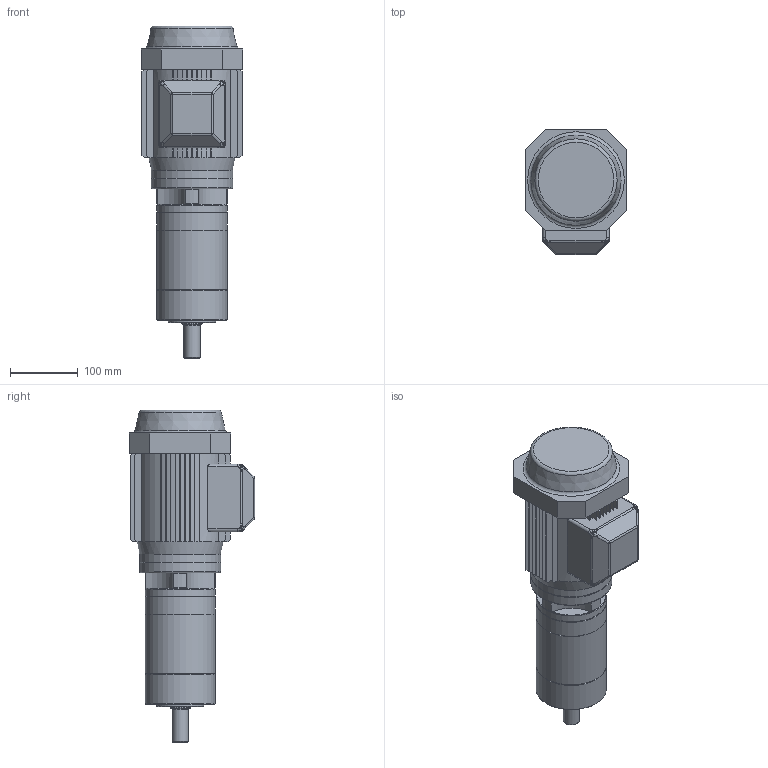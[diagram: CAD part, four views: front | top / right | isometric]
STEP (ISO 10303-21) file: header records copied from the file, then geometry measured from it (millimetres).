
FILE_DESCRIPTION((''),'2;1');
FILE_NAME('Y:\Archivi Inventor\Prog_16\Mep_100\Complessivi\figurini\Figurini per web\4s\MEP100_4s_80_B14.stp','2013-09-27T08:54:18',('tech3'),(''),'Autodesk Inventor 2013','Autodesk Inventor 2013','');
FILE_SCHEMA(('AUTOMOTIVE_DESIGN { 1 0 10303 214 1 1 1 1 }'));
Length unit declared in the file: millimetre
Products named in the file (13): Fig_MEP100_4S; Fig_1610001-C1; Fig_1610002-A0; Fig_1610003-A0; 1610004-C0; Fig_1610010-A1; UNI EN ISO 2338 B - 6 x 16; 1610011-A0; PARAOLIO 30x47x7; UNI 5931 M 6 x  50; Fig_1610001-D1; motori B14 80; DIN EN ISO 4762 M6 x 45
Assembly tree (27 placements, depth 2):
  Fig_MEP100_4S
    Fig_1610001-C1
    Fig_1610002-A0
    Fig_1610003-A0
    1610004-C0
    Fig_1610010-A1
    UNI EN ISO 2338 B - 6 x 16  x4
    1610011-A0  x3
    PARAOLIO 30x47x7
    UNI 5931 M 6 x  50  x8
    Fig_1610001-D1
    motori B14 80
    DIN EN ISO 4762 M6 x 45  x4
Bounding box: 150 x 185 x 491.05 mm (x, y, z)
Volume: 5159363.4 mm3; surface area: 498460.8 mm2
Topology: 27 solids, 27 shells, 802 faces, 1964 edges, 1244 vertices
Faces by surface type: plane 439, cylinder 205, cone 92, bspline 32, torus 30, sphere 4
Full cylindrical faces by diameter (mm): 4.917 x12, 6 x26, 6.5 x38, 6.647 x4, 6.75 x1, 8.4 x1, 10 x12, 10.5 x8, 19 x1, 23.4 x1, 24 x1, 30 x1, 33.967 x1, 40 x1, 44 x1, 47 x2, 50 x2, 70 x1, 76.5 x5, 80 x1, 83.4 x1, 100 x3, 104 x4, 114.4 x1, 120 x2
Entity records: 20265 total; most frequent: CARTESIAN_POINT 5591, DIRECTION 2926, ORIENTED_EDGE 2688, EDGE_CURVE 1344, AXIS2_PLACEMENT_3D 1065, VERTEX_POINT 930, EDGE_LOOP 858, VECTOR 796
